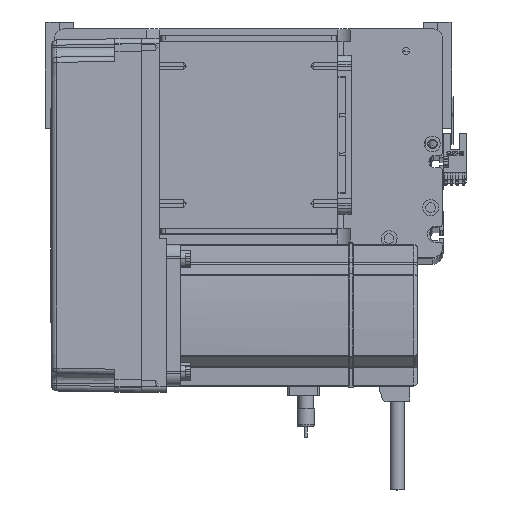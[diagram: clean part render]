
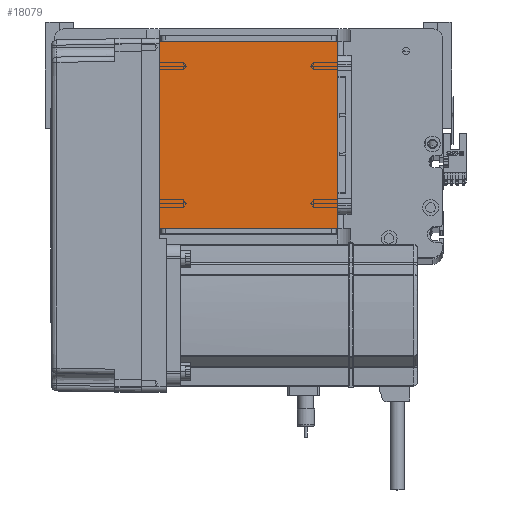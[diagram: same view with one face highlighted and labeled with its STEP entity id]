
A CAD part, top view. The second image highlights one B-rep face of the part: STEP entity #18079.
In plain terms, the highlighted planar face has unit normal (0, 0, 1).
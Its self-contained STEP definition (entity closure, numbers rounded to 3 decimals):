
#1048 = VERTEX_POINT ( 'NONE', #5870 ) ;
#5578 = LINE ( 'NONE', #9110, #11338 ) ;
#5870 = CARTESIAN_POINT ( 'NONE',  ( 50.5, 16., 115. ) ) ;
#9110 = CARTESIAN_POINT ( 'NONE',  ( 50.5, 122., 115. ) ) ;
#9973 = VECTOR ( 'NONE', #54073, 1000. ) ;
#11338 = VECTOR ( 'NONE', #37987, 1000. ) ;
#12321 = CARTESIAN_POINT ( 'NONE',  ( -50.5, 122., 115. ) ) ;
#13085 = DIRECTION ( 'NONE',  ( -1., 0., 0. ) ) ;
#13255 = EDGE_LOOP ( 'NONE', ( #26039, #47048, #18807, #42731 ) ) ;
#14496 = LINE ( 'NONE', #25572, #53814 ) ;
#18079 = ADVANCED_FACE ( 'NONE', ( #47567 ), #19227, .T. ) ;
#18807 = ORIENTED_EDGE ( 'NONE', *, *, #51066, .T. ) ;
#19227 = PLANE ( 'NONE',  #28640 ) ;
#20297 = VECTOR ( 'NONE', #37309, 1000. ) ;
#25572 = CARTESIAN_POINT ( 'NONE',  ( -50.5, 122., 115. ) ) ;
#26039 = ORIENTED_EDGE ( 'NONE', *, *, #44254, .T. ) ;
#27113 = CARTESIAN_POINT ( 'NONE',  ( 50.5, 122., 115. ) ) ;
#27644 = DIRECTION ( 'NONE',  ( 0., 0., 1. ) ) ;
#28640 = AXIS2_PLACEMENT_3D ( 'NONE', #48084, #27644, #31636 ) ;
#28689 = VERTEX_POINT ( 'NONE', #27113 ) ;
#31636 = DIRECTION ( 'NONE',  ( 1., 0., 0. ) ) ;
#35948 = EDGE_CURVE ( 'NONE', #28689, #38723, #14496, .T. ) ;
#37309 = DIRECTION ( 'NONE',  ( 1., 0., 0. ) ) ;
#37948 = EDGE_CURVE ( 'NONE', #43992, #1048, #43793, .T. ) ;
#37987 = DIRECTION ( 'NONE',  ( 0., 1., 0. ) ) ;
#38723 = VERTEX_POINT ( 'NONE', #53970 ) ;
#39800 = CARTESIAN_POINT ( 'NONE',  ( -50.5, 16., 115. ) ) ;
#40101 = LINE ( 'NONE', #12321, #9973 ) ;
#41705 = CARTESIAN_POINT ( 'NONE',  ( -50.5, 16., 115. ) ) ;
#42731 = ORIENTED_EDGE ( 'NONE', *, *, #35948, .T. ) ;
#43793 = LINE ( 'NONE', #41705, #20297 ) ;
#43992 = VERTEX_POINT ( 'NONE', #39800 ) ;
#44254 = EDGE_CURVE ( 'NONE', #38723, #43992, #40101, .T. ) ;
#47048 = ORIENTED_EDGE ( 'NONE', *, *, #37948, .T. ) ;
#47567 = FACE_OUTER_BOUND ( 'NONE', #13255, .T. ) ;
#48084 = CARTESIAN_POINT ( 'NONE',  ( 0., 0., 115. ) ) ;
#51066 = EDGE_CURVE ( 'NONE', #1048, #28689, #5578, .T. ) ;
#53814 = VECTOR ( 'NONE', #13085, 1000. ) ;
#53970 = CARTESIAN_POINT ( 'NONE',  ( -50.5, 122., 115. ) ) ;
#54073 = DIRECTION ( 'NONE',  ( 0., -1., 0. ) ) ;
